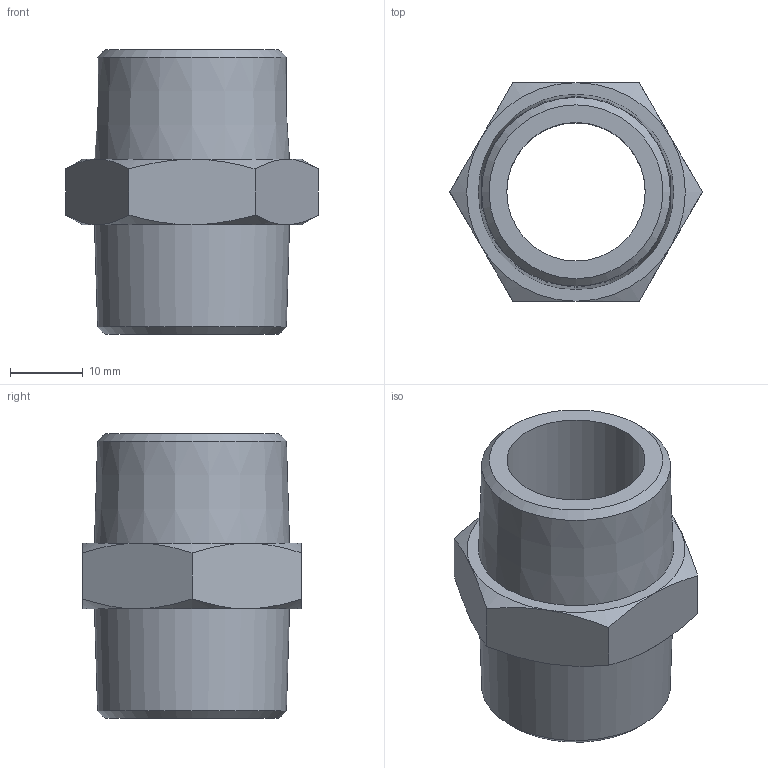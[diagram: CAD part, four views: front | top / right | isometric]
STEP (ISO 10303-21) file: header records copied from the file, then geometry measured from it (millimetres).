
FILE_DESCRIPTION((''),'2;1');
FILE_NAME('G:\Nirosan-Schmiedefeld\Technics\CAD\001 Serie 9.000\Kaufteile\DGN\6928034(0).stp','2018-10-16T10:54:24',('herberg'),(''),'Autodesk Inventor 2009','Autodesk Inventor 2009','');
FILE_SCHEMA(('AUTOMOTIVE_DESIGN { 1 0 10303 214 1 1 1 1 }'));
Length unit declared in the file: millimetre
Products named in the file (1): 6928034(0)
Bounding box: 34.64 x 30 x 39 mm (x, y, z)
Volume: 12138.9 mm3; surface area: 6490.8 mm2
Topology: 1 solids, 1 shells, 27 faces, 56 edges, 33 vertices
Faces by surface type: cone 9, plane 9, bspline 9
Entity records: 782 total; most frequent: CARTESIAN_POINT 297, ORIENTED_EDGE 100, DIRECTION 84, EDGE_CURVE 50, AXIS2_PLACEMENT_3D 39, EDGE_LOOP 36, VERTEX_POINT 32, FACE_OUTER_BOUND 27
